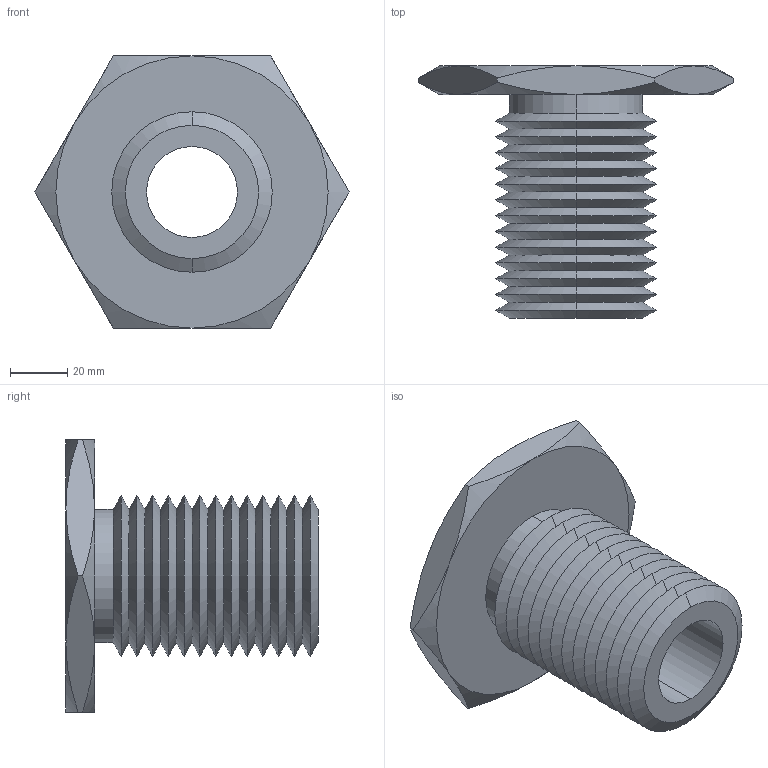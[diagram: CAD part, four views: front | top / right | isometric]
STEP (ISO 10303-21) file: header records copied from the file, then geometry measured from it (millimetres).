
FILE_DESCRIPTION (( 'STEP AP203' ), '1' );
FILE_NAME ('63302.W0056_1,25 UNC-7.step', '2013-12-08T11:24:02', ( 'User' ), ( '' ), 'SwSTEP 2.0', 'SolidWorks 2009', '' );
FILE_SCHEMA (( 'CONFIG_CONTROL_DESIGN' ));
Length unit declared in the file: millimetre
Products named in the file (1): 63302.W0056_1,25 UNC-7
Bounding box: 109.7 x 88 x 95 mm (x, y, z)
Volume: 164790.9 mm3; surface area: 49156.3 mm2
Topology: 1 solids, 1 shells, 79 faces, 162 edges, 86 vertices
Faces by surface type: cone 66, plane 9, cylinder 4
Entity records: 2271 total; most frequent: CARTESIAN_POINT 544, DIRECTION 372, ORIENTED_EDGE 324, EDGE_CURVE 162, AXIS2_PLACEMENT_3D 154, VERTEX_POINT 86, EDGE_LOOP 82, ADVANCED_FACE 79
